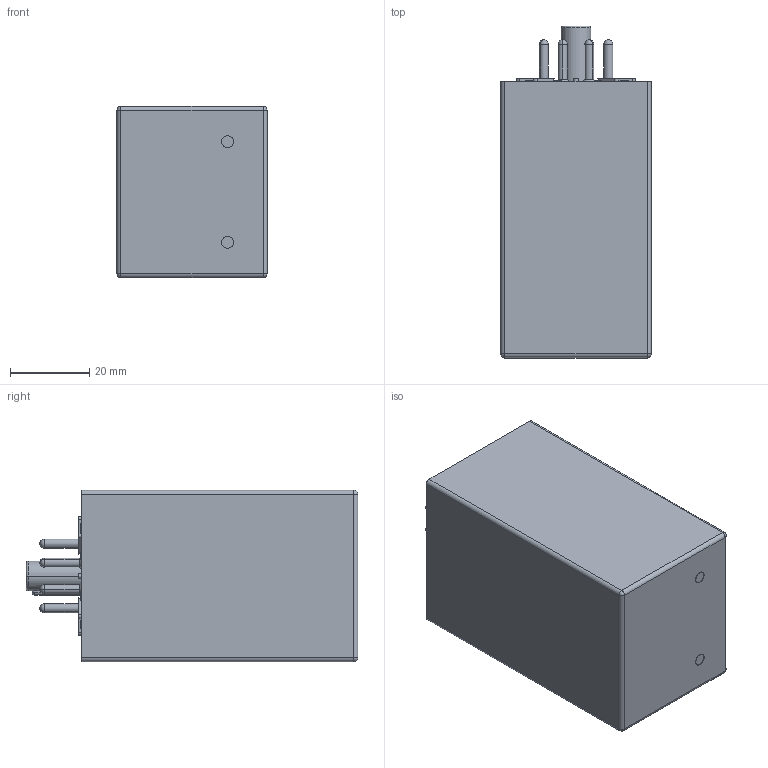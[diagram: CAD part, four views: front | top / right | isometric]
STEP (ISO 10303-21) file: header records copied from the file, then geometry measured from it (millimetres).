
FILE_DESCRIPTION((''),'2;1');
FILE_NAME('CAT_I_200','2024-01-29T16:46:07',('LGZ'),(''),'CREO PARAMETRIC BY PTC INC, 2023072','CREO PARAMETRIC BY PTC INC, 2023072','');
FILE_SCHEMA(('AUTOMOTIVE_DESIGN { 1 0 10303 214 1 1 1 1 }'));
Length unit declared in the file: millimetre
Products named in the file (1): CAT_I_200
Bounding box: 38 x 84 x 43.4 mm (x, y, z)
Volume: 116381.2 mm3; surface area: 15523 mm2
Topology: 1 solids, 1 shells, 413 faces, 1118 edges, 721 vertices
Faces by surface type: plane 326, cylinder 48, sphere 21, cone 16, torus 2
Entity records: 12828 total; most frequent: CARTESIAN_POINT 2248, ORIENTED_EDGE 2202, DIRECTION 2059, EDGE_CURVE 1101, VECTOR 967, LINE 967, VERTEX_POINT 721, AXIS2_PLACEMENT_3D 546
